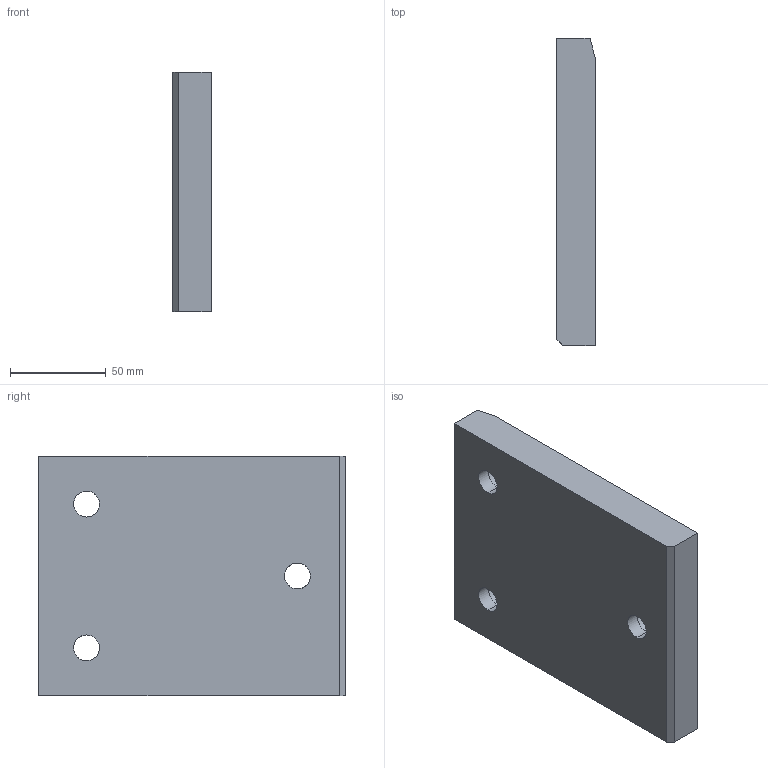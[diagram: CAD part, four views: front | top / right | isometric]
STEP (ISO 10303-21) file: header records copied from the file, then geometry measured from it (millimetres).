
FILE_DESCRIPTION(('CATIA V5 STEP Exchange'),'2;1');
FILE_NAME('C:\Users\borellobunino\Desktop\3D X SITO CF\A915\GSB_OILLESS_G22501125160\STEP-2.03\A915-125X160.stp','2019-07-14T13:55:33+00:00',('none'),('none'),'CATIA Version 5 Release 20 GA (IN-10)','CATIA V5 STEP AP203','none');
FILE_SCHEMA(('CONFIG_CONTROL_DESIGN'));
Length unit declared in the file: millimetre
Products named in the file (1): A915-125X160
Bounding box: 20 x 160 x 125 mm (x, y, z)
Volume: 382113.9 mm3; surface area: 53104.3 mm2
Topology: 1 solids, 1 shells, 30 faces, 99 edges, 74 vertices
Faces by surface type: cylinder 13, plane 11, torus 6
Entity records: 1437 total; most frequent: CARTESIAN_POINT 540, ORIENTED_EDGE 198, DIRECTION 135, EDGE_CURVE 99, AXIS2_PLACEMENT_3D 75, VERTEX_POINT 74, CIRCLE 44, EDGE_LOOP 39
